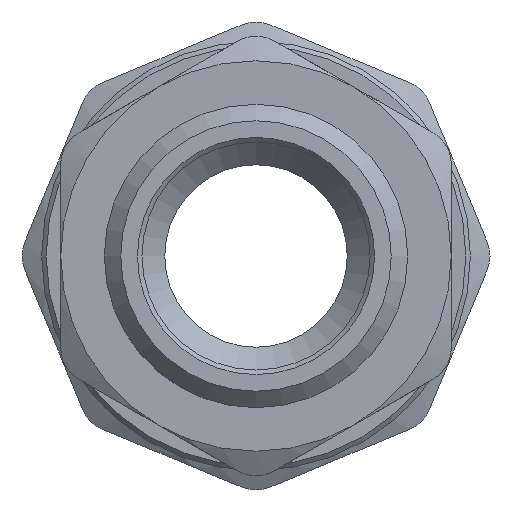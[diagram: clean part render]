
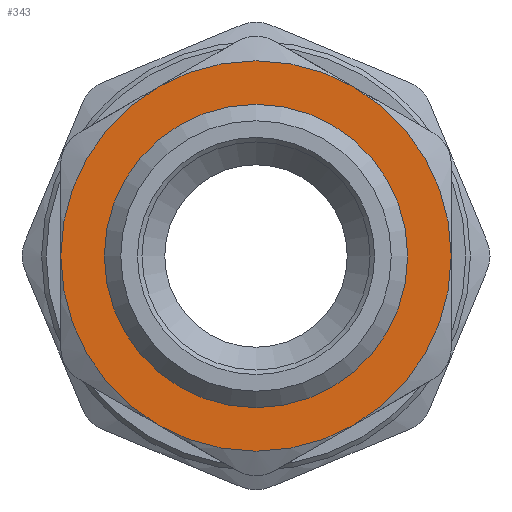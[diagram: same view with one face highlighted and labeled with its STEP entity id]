
A CAD part, front view. The second image highlights one B-rep face of the part: STEP entity #343.
In plain terms, the highlighted planar face has unit normal (0, -1, 0).
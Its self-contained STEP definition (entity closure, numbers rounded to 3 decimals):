
#343=ADVANCED_FACE('',(#2372,#2374),#2376,.T.);
#2372=FACE_BOUND('',#2373,.T.);
#2373=EDGE_LOOP('',(#4642,#4643,#4644,#4645));
#2374=FACE_BOUND('',#2375,.T.);
#2375=EDGE_LOOP('',(#4646));
#2376=PLANE('',#2377);
#2377=AXIS2_PLACEMENT_3D('',#2378,#2379,#2380);
#2378=CARTESIAN_POINT('',(0.,16.5,0.));
#2379=DIRECTION('',(0.,-1.,0.));
#2380=DIRECTION('',(1.,0.,0.));
#4642=ORIENTED_EDGE('',*,*,#5543,.T.);
#4643=ORIENTED_EDGE('',*,*,#5541,.T.);
#4644=ORIENTED_EDGE('',*,*,#5540,.T.);
#4645=ORIENTED_EDGE('',*,*,#5542,.T.);
#4646=ORIENTED_EDGE('',*,*,#5554,.T.);
#5540=EDGE_CURVE('',#6272,#6277,#6902,.F.);
#5541=EDGE_CURVE('',#6283,#6272,#6903,.F.);
#5542=EDGE_CURVE('',#6277,#6299,#6904,.F.);
#5543=EDGE_CURVE('',#6299,#6283,#6905,.F.);
#5554=EDGE_CURVE('',#6926,#6926,#6927,.T.);
#6272=VERTEX_POINT('',#10085);
#6277=VERTEX_POINT('',#10164);
#6283=VERTEX_POINT('',#10286);
#6299=VERTEX_POINT('',#10520);
#6902=CIRCLE('',#12736,21.4);
#6903=CIRCLE('',#12740,21.4);
#6904=CIRCLE('',#12744,21.4);
#6905=CIRCLE('',#12748,21.4);
#6926=VERTEX_POINT('',#12794);
#6927=CIRCLE('',#12795,16.625);
#10085=CARTESIAN_POINT('',(-21.4,16.5,0.));
#10164=CARTESIAN_POINT('',(-10.7,16.5,-18.533));
#10286=CARTESIAN_POINT('',(-10.7,16.5,18.533));
#10520=CARTESIAN_POINT('',(21.4,16.5,0.));
#12736=AXIS2_PLACEMENT_3D('',#12737,#12738,#12739);
#12737=CARTESIAN_POINT('',(0.,16.5,0.));
#12738=DIRECTION('',(0.,1.,0.));
#12739=DIRECTION('',(-0.5,0.,-0.866));
#12740=AXIS2_PLACEMENT_3D('',#12741,#12742,#12743);
#12741=CARTESIAN_POINT('',(0.,16.5,0.));
#12742=DIRECTION('',(0.,1.,0.));
#12743=DIRECTION('',(-1.,0.,0.));
#12744=AXIS2_PLACEMENT_3D('',#12745,#12746,#12747);
#12745=CARTESIAN_POINT('',(0.,16.5,0.));
#12746=DIRECTION('',(0.,1.,0.));
#12747=DIRECTION('',(1.,0.,0.));
#12748=AXIS2_PLACEMENT_3D('',#12749,#12750,#12751);
#12749=CARTESIAN_POINT('',(0.,16.5,0.));
#12750=DIRECTION('',(0.,1.,0.));
#12751=DIRECTION('',(-0.5,0.,0.866));
#12794=CARTESIAN_POINT('',(-16.625,16.5,0.));
#12795=AXIS2_PLACEMENT_3D('',#12796,#12797,#12798);
#12796=CARTESIAN_POINT('',(0.,16.5,0.));
#12797=DIRECTION('',(0.,1.,0.));
#12798=DIRECTION('',(-1.,0.,0.));
